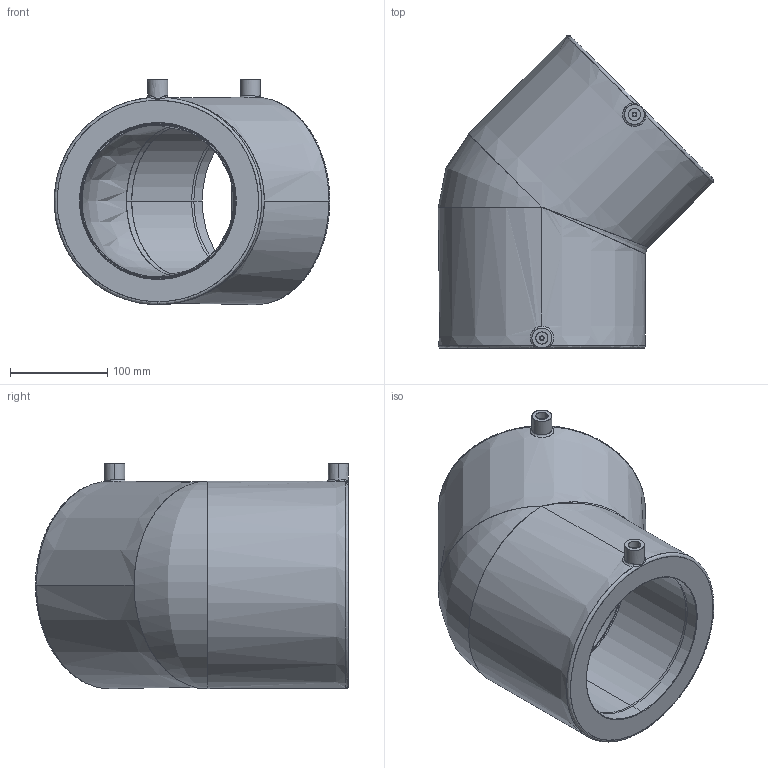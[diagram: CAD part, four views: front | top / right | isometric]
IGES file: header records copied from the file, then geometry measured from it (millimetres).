
Start section: SolidWorks IGES file using analytic representation for surfaces
Global section: file name: G:\Group\Marketing\Public\CAD Offering - Website\6. 45deg elbow\EBKHA160X45.IGS; native system: SolidWorks 2017; preprocessor: SolidWorks 2017; author: hwegrzynska; date: 180920.134618; units: millimetre
Bounding box: 283.09 x 321.59 x 231.5 mm (x, y, z)
Surface area: 371004.5 mm2 (no closed solid volume)
Topology: 0 solids, 0 shells, 69 faces, 1492 edges, 1487 vertices
Faces by surface type: revolution 41, bspline 28
